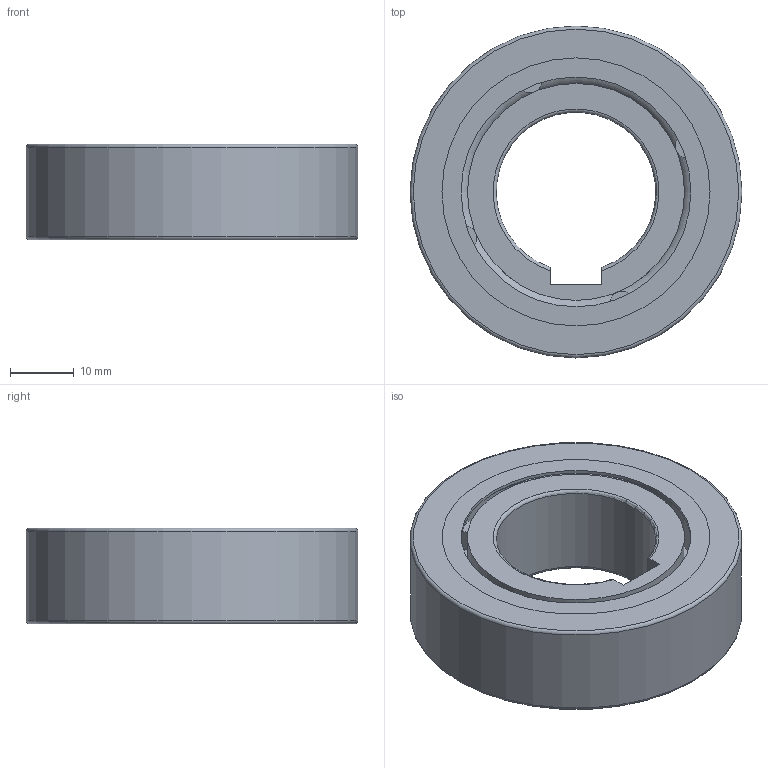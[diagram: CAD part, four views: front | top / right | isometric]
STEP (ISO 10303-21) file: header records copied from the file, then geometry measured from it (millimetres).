
FILE_DESCRIPTION(/* description */ (''),/* implementation_level */ '2;1');
FILE_NAME(/* name */ '301131 FKN 6205.stp',/* time_stamp */ '2016-11-24T09:40:05+01:00',/* author */ (''),/* organization */ (''),/* preprocessor_version */ 'ST-DEVELOPER v15',/* originating_system */ 'SIEMENS PLM Software NX 8.5',/* authorisation */ '');
FILE_SCHEMA (('CONFIG_CONTROL_DESIGN'));
Length unit declared in the file: millimetre
Products named in the file (3): ATE0000079_01; ATE0000114_01; ATE0000115_01
Assembly tree (2 placements, depth 2):
  ATE0000115_01
    ATE0000114_01
    ATE0000079_01
Bounding box: 52 x 52 x 15 mm (x, y, z)
Volume: 20322.7 mm3; surface area: 12876 mm2
Topology: 3 solids, 3 shells, 71 faces, 161 edges, 106 vertices
Faces by surface type: plane 45, cylinder 20, torus 6
Full cylindrical faces by diameter (mm): 34 x2, 36 x1, 38 x1, 40 x1, 41 x2, 42 x3, 52 x1
Entity records: 2241 total; most frequent: CARTESIAN_POINT 381, DIRECTION 342, ORIENTED_EDGE 276, EDGE_CURVE 138, AXIS2_PLACEMENT_3D 134, EDGE_LOOP 104, VERTEX_POINT 100, LINE 74
